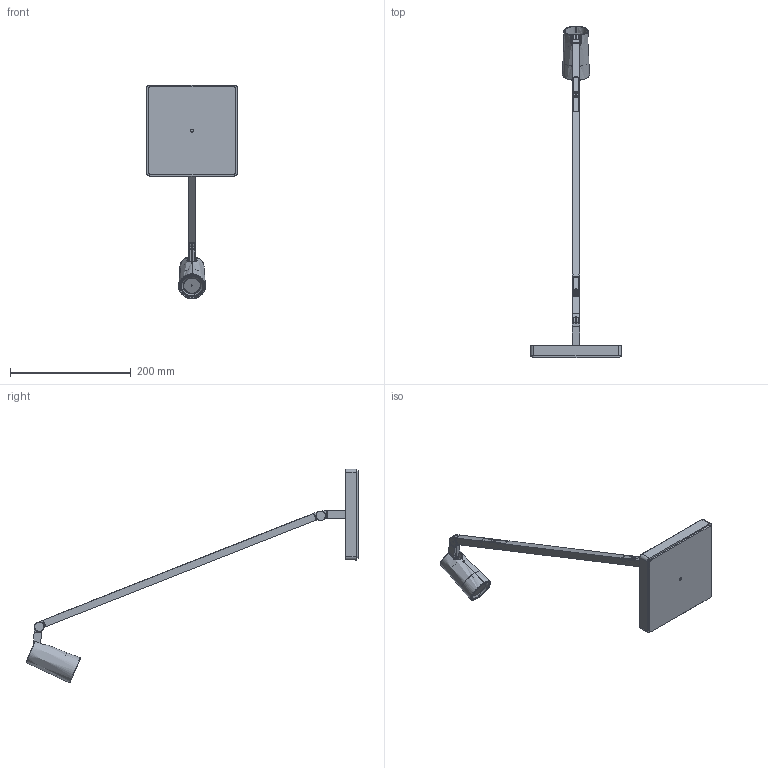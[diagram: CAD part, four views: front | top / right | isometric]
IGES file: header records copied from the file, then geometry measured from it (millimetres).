
Start section: SolidWorks IGES file using analytic representation for surfaces
Global section: file name: C:\Users\MarcoErba\Desktop\800UNTLNN161_UNTITLED MINI SPOT 2700K.IGS; native system: SolidWorks 2016; preprocessor: SolidWorks 2016; author: MarcoErba; date: 230120.101802; units: millimetre
Bounding box: 150.31 x 548.95 x 353.49 mm (x, y, z)
Surface area: 183206.5 mm2 (no closed solid volume)
Topology: 0 solids, 0 shells, 1779 faces, 17945 edges, 17927 vertices
Faces by surface type: bspline 1112, revolution 667
